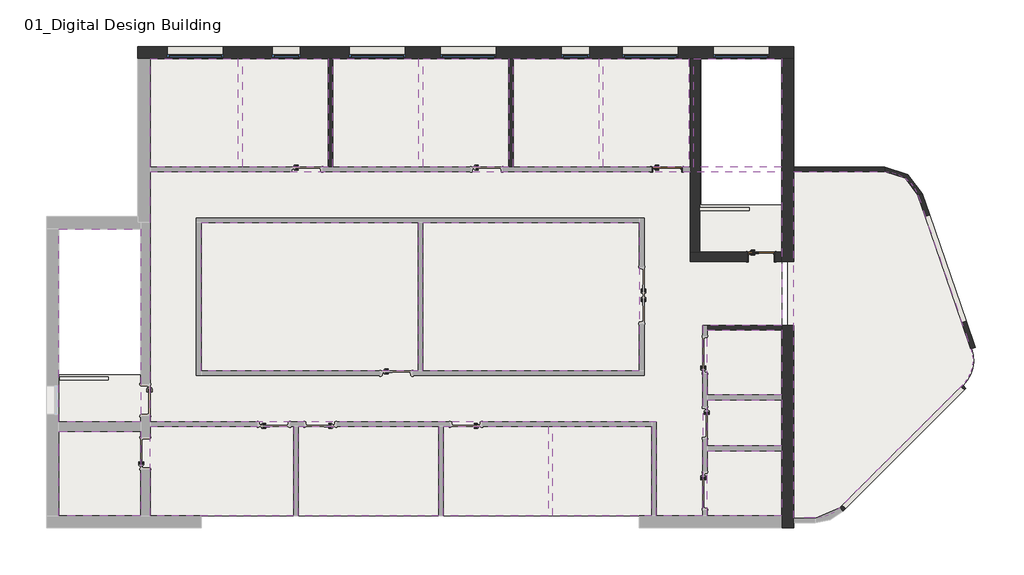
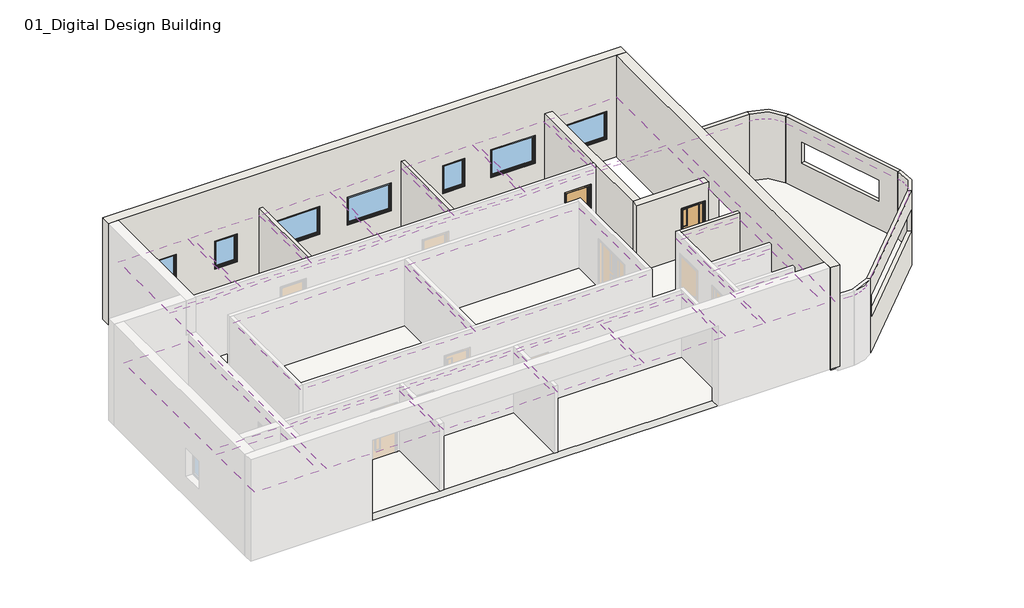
# One storey, part 2 of 2: 20 coverings, 13 walls, 7 windows, 2 doors, 2 slabs.
"""IFC4 building model written with IfcOpenShell, lengths in millimetres."""

from ifc_helpers import new_model, si_unit, point, frame, frame_2d, origin, place, context, project, spatial, polyline, circle_curve, trimmed, segment, composite_curve, outline, extrude, faceted_brep, transform, mapped, element, save
from components import doors_intsgl_1_1010x2110mm_12a6edaf, doors_intsgl_3_910x2110mm_ed6625c4, windows_concept_plain_sgl_1810x1210mm_7f7241d7, windows_concept_plain_sgl_910x1210mm_ef0b7ad2

model = new_model("IFC4")

# Units and contexts
model_context = context("Model", 3, world=origin())
ifc_project = project(units=[si_unit("LENGTHUNIT", "METRE", prefix="MILLI")], contexts=[model_context])

# Site, building, storey
site = spatial("IfcSite", under=ifc_project)
building = spatial("IfcBuilding", under=site)
storey = spatial("IfcBuildingStorey", under=building, Name="01_Digital Design Building", Elevation=4500.0)

# Coverings
placement = place(None, origin())
element("IfcCovering", 1, ObjectType="Ceiling_CompoundGeneric", at=placement, inside=storey, context=model_context, shape_type="SweptSolid", body=[
    extrude(outline(polyline([(425322.3206883, -385049.0026386), (425322.3206883, -381550.0026386), (428163.8921169, -381550.0026386), (428163.8921169, -385049.0026386), (425322.3206883, -385049.0026386)])), frame((0.0, 0.0, 7100.0), z_axis=(0.0, 0.0, 1.0), x_axis=(1.0, 0.0, 0.0)), (0.0, 0.0, 1.0), 52.0),
])
element("IfcCovering", 2, ObjectType="Ceiling_CompoundGeneric", at=placement, inside=storey, context=model_context, shape_type="SweptSolid", body=[
    extrude(outline(polyline([(428313.8921169, -381550.0026386), (431080.4635455, -381550.0026386), (431080.4635455, -385049.0026386), (428313.8921169, -385049.0026386), (428313.8921169, -381550.0026386)])), frame((0.0, 0.0, 7100.0), z_axis=(0.0, 0.0, 1.0), x_axis=(1.0, 0.0, 0.0)), (0.0, 0.0, 1.0), 52.0),
])
element("IfcCovering", 3, ObjectType="Ceiling_CompoundGeneric", at=placement, inside=storey, context=model_context, shape_type="SweptSolid", body=[
    extrude(outline(polyline([(431230.4635455, -381550.0026386), (433997.034974, -381550.0026386), (433997.034974, -385049.0026386), (431230.4635455, -385049.0026386), (431230.4635455, -381550.0026386)])), frame((0.0, 0.0, 7100.0), z_axis=(0.0, 0.0, 1.0), x_axis=(1.0, 0.0, 0.0)), (0.0, 0.0, 1.0), 52.0),
])
element("IfcCovering", 4, ObjectType="Ceiling_CompoundGeneric", at=placement, inside=storey, context=model_context, shape_type="SweptSolid", body=[
    extrude(outline(polyline([(434147.034974, -381550.0026386), (436913.6064026, -381550.0026386), (436913.6064026, -385049.0026386), (434147.034974, -385049.0026386), (434147.034974, -381550.0026386)])), frame((0.0, 0.0, 7100.0), z_axis=(0.0, 0.0, 1.0), x_axis=(1.0, 0.0, 0.0)), (0.0, 0.0, 1.0), 52.0),
])
element("IfcCovering", 5, ObjectType="Ceiling_CompoundGeneric", at=placement, inside=storey, context=model_context, shape_type="SweptSolid", body=[
    extrude(outline(polyline([(437063.6064026, -381550.0026386), (439830.1778312, -381550.0026386), (439830.1778312, -385049.0026386), (437063.6064026, -385049.0026386), (437063.6064026, -381550.0026386)])), frame((0.0, 0.0, 7100.0), z_axis=(0.0, 0.0, 1.0), x_axis=(1.0, 0.0, 0.0)), (0.0, 0.0, 1.0), 52.0),
])
element("IfcCovering", 6, ObjectType="Ceiling_CompoundGeneric", at=placement, inside=storey, context=model_context, shape_type="SweptSolid", body=[
    extrude(outline(polyline([(439980.1778312, -381550.0026386), (442746.7492598, -381550.0026386), (442746.7492598, -385049.0026386), (439980.1778312, -385049.0026386), (439980.1778312, -381550.0026386)])), frame((0.0, 0.0, 7100.0), z_axis=(0.0, 0.0, 1.0), x_axis=(1.0, 0.0, 0.0)), (0.0, 0.0, 1.0), 52.0),
])
element("IfcCovering", 7, ObjectType="Ceiling_CompoundGeneric", at=placement, inside=storey, context=model_context, shape_type="SweptSolid", body=[
    extrude(outline(polyline([(442896.7492598, -385049.0026386), (442896.7492598, -381550.0026386), (445738.3206883, -381550.0026386), (445738.3206883, -385049.0026386), (442896.7492598, -385049.0026386)])), frame((0.0, 0.0, 7100.0), z_axis=(0.0, 0.0, 1.0), x_axis=(1.0, 0.0, 0.0)), (0.0, 0.0, 1.0), 52.0),
])
element("IfcCovering", 8, ObjectType="Ceiling_CompoundGeneric", at=placement, inside=storey, context=model_context, shape_type="SweptSolid", body=[
    extrude(outline(polyline([(434142.3206883, -391649.0026386), (434142.3206883, -386849.0026386), (441142.3206883, -386849.0026386), (441142.3206883, -391649.0026386), (434142.3206883, -391649.0026386)])), frame((0.0, 0.0, 7100.0), z_axis=(0.0, 0.0, 1.0), x_axis=(1.0, 0.0, 0.0)), (0.0, 0.0, 1.0), 52.0),
])
element("IfcCovering", 9, ObjectType="Ceiling_CompoundGeneric", at=placement, inside=storey, context=model_context, shape_type="SweptSolid", body=[
    extrude(outline(polyline([(426972.3206883, -386849.0026386), (433992.3206883, -386849.0026386), (433992.3206883, -391649.0026386), (426972.3206883, -391649.0026386), (426972.3206883, -386849.0026386)])), frame((0.0, 0.0, 7100.0), z_axis=(0.0, 0.0, 1.0), x_axis=(1.0, 0.0, 0.0)), (0.0, 0.0, 1.0), 52.0),
])
element("IfcCovering", 10, ObjectType="Ceiling_CompoundGeneric", at=placement, inside=storey, context=model_context, shape_type="SweptSolid", body=[
    extrude(outline(polyline([(422376.3206883, -393299.0026386), (422376.3206883, -387049.0026386), (425012.3206883, -387049.0026386), (425012.3206883, -393299.0026386), (422376.3206883, -393299.0026386)])), frame((0.0, 0.0, 7100.0), z_axis=(0.0, 0.0, 1.0), x_axis=(1.0, 0.0, 0.0)), (0.0, 0.0, 1.0), 52.0),
])
element("IfcCovering", 11, ObjectType="Ceiling_CompoundGeneric", at=placement, inside=storey, context=model_context, shape_type="SweptSolid", body=[
    extrude(outline(polyline([(425012.3206883, -396328.0026386), (422376.3206883, -396328.0026386), (422376.3206883, -394395.0026386), (422376.3206883, -393609.0026386), (425012.3206883, -393609.0026386), (425012.3206883, -396328.0026386)])), frame((0.0, 0.0, 7100.0), z_axis=(0.0, 0.0, 1.0), x_axis=(1.0, 0.0, 0.0)), (0.0, 0.0, 1.0), 52.0),
])
element("IfcCovering", 12, ObjectType="Ceiling_CompoundGeneric", at=placement, inside=storey, context=model_context, shape_type="SweptSolid", body=[
    extrude(outline(polyline([(429969.5429107, -396328.0026386), (425322.3206883, -396328.0026386), (425322.3206883, -393449.0026386), (429969.5429107, -393449.0026386), (429969.5429107, -396328.0026386)])), frame((0.0, 0.0, 7100.0), z_axis=(0.0, 0.0, 1.0), x_axis=(1.0, 0.0, 0.0)), (0.0, 0.0, 1.0), 52.0),
])
element("IfcCovering", 13, ObjectType="Ceiling_CompoundGeneric", at=placement, inside=storey, context=model_context, shape_type="SweptSolid", body=[
    extrude(outline(polyline([(434652.8762438, -396328.0026386), (430119.5429107, -396328.0026386), (430119.5429107, -393449.0026386), (434652.8762438, -393449.0026386), (434652.8762438, -396328.0026386)])), frame((0.0, 0.0, 7100.0), z_axis=(0.0, 0.0, 1.0), x_axis=(1.0, 0.0, 0.0)), (0.0, 0.0, 1.0), 52.0),
])
element("IfcCovering", 14, ObjectType="Ceiling_CompoundGeneric", at=placement, inside=storey, context=model_context, shape_type="SweptSolid", body=[
    extrude(outline(polyline([(438198.3206883, -396328.0026386), (434802.8762438, -396328.0026386), (434802.8762438, -393449.0026386), (438198.3206883, -393449.0026386), (438198.3206883, -396328.0026386)])), frame((0.0, 0.0, 7100.0), z_axis=(0.0, 0.0, 1.0), x_axis=(1.0, 0.0, 0.0)), (0.0, 0.0, 1.0), 52.0),
])
element("IfcCovering", 15, ObjectType="Ceiling_CompoundGeneric", at=placement, inside=storey, context=model_context, shape_type="SweptSolid", body=[
    extrude(outline(polyline([(441538.3206883, -396328.0026386), (438348.3206883, -396328.0026386), (438348.3206883, -393449.0026386), (441538.3206883, -393449.0026386), (441538.3206883, -396328.0026386)])), frame((0.0, 0.0, 7100.0), z_axis=(0.0, 0.0, 1.0), x_axis=(1.0, 0.0, 0.0)), (0.0, 0.0, 1.0), 52.0),
])
element("IfcCovering", 16, ObjectType="Ceiling_CompoundGeneric", at=placement, inside=storey, context=model_context, shape_type="SweptSolid", body=[
    extrude(outline(polyline([(445738.3206883, -394228.0026386), (445738.3206883, -396328.0026386), (443338.3206883, -396328.0026386), (443338.3206883, -394228.0026386), (445738.3206883, -394228.0026386)])), frame((0.0, 0.0, 7100.0), z_axis=(0.0, 0.0, 1.0), x_axis=(1.0, 0.0, 0.0)), (0.0, 0.0, 1.0), 52.0),
])
element("IfcCovering", 17, ObjectType="Ceiling_CompoundGeneric", at=placement, inside=storey, context=model_context, shape_type="SweptSolid", body=[
    extrude(outline(polyline([(445738.3206883, -392578.0026386), (445738.3206883, -394078.0026386), (443338.3206883, -394078.0026386), (443338.3206883, -392578.0026386), (445738.3206883, -392578.0026386)])), frame((0.0, 0.0, 7100.0), z_axis=(0.0, 0.0, 1.0), x_axis=(1.0, 0.0, 0.0)), (0.0, 0.0, 1.0), 52.0),
])
element("IfcCovering", 18, ObjectType="Ceiling_CompoundGeneric", at=placement, inside=storey, context=model_context, shape_type="SweptSolid", body=[
    extrude(outline(polyline([(445738.3206883, -390328.0026386), (445738.3206883, -392428.0026386), (443338.3206883, -392428.0026386), (443338.3206883, -390328.0026386), (445738.3206883, -390328.0026386)])), frame((0.0, 0.0, 7100.0), z_axis=(0.0, 0.0, 1.0), x_axis=(1.0, 0.0, 0.0)), (0.0, 0.0, 1.0), 52.0),
])
element("IfcCovering", 19, ObjectType="Ceiling_CompoundGeneric", at=placement, inside=storey, context=model_context, shape_type="SweptSolid", body=[
    extrude(outline(polyline([(445738.3206883, -385199.0026386), (445738.3206883, -390178.0026386), (443188.3206883, -390178.0026386), (443188.3206883, -396328.0026386), (441688.3206883, -396328.0026386), (441688.3206883, -393299.0026386), (425322.3206883, -393299.0026386), (425322.3206883, -386848.0026386), (425322.3206883, -385199.0026386), (445738.3206883, -385199.0026386)]), holes=[polyline([(441292.3206883, -391799.0026386), (441292.3206883, -386699.0026386), (426822.3206883, -386699.0026386), (426822.3206883, -391799.0026386), (441292.3206883, -391799.0026386)])]), frame((0.0, 0.0, 7100.0), z_axis=(0.0, 0.0, 1.0), x_axis=(1.0, 0.0, 0.0)), (0.0, 0.0, 1.0), 52.0),
])
element("IfcCovering", 20, ObjectType="Ceiling_CompoundGeneric", at=placement, inside=storey, context=model_context, shape_type="SweptSolid", body=[
    extrude(outline(composite_curve([segment(polyline([(446140.3206883, -396408.0026386), (446140.3206883, -385199.0026386), (449083.3690069, -385199.0026386)]), True, "CONTINUOUS"), segment(trimmed(circle_curve(frame_2d((449083.3690069, -386324.0026386)), 1125.0), [point((449083.3690069, -385199.0026386))], [point((450147.0774044, -385957.7384648))], False, "CARTESIAN"), True, "CONTINUOUS"), segment(polyline([(450147.0774044, -385957.7384648), (451862.4112075, -390939.4295547)]), True, "CONTINUOUS"), segment(trimmed(circle_curve(frame_2d((450798.70281, -391305.6937285)), 1125.0), [point((451862.4112075, -390939.4295547))], [point((451594.1979388, -392101.1888573))], False, "CARTESIAN"), True, "CONTINUOUS"), segment(polyline([(451594.1979388, -392101.1888573), (447616.8890287, -396078.4977674)]), True, "CONTINUOUS"), segment(trimmed(circle_curve(frame_2d((446821.3938999, -395283.0026386)), 1125.0), [point((447616.8890287, -396078.4977674))], [point((446821.3938999, -396408.0026386))], False, "CARTESIAN"), True, "CONTINUOUS"), segment(polyline([(446821.3938999, -396408.0026386), (446140.3206883, -396408.0026386)]), True, "CONTINUOUS")], self_intersect=False)), frame((0.0, 0.0, 7100.0), z_axis=(0.0, 0.0, 1.0), x_axis=(1.0, 0.0, 0.0)), (0.0, 0.0, 1.0), 52.0),
])

# Doors
doors_intsgl_1_1010x2110mm_shape = doors_intsgl_1_1010x2110mm_12a6edaf(model_context)
element("IfcDoor", 21, ObjectType="Doors_IntSgl_1 : 1010x2110mm", at=placement, inside=storey, context=model_context, shape_type="MappedRepresentation", body=[
    mapped(doors_intsgl_1_1010x2110mm_shape, transform((442041.7492598, -385124.0026386, 4500.0), x_axis=(1.0, 0.0, 0.0), y_axis=(0.0, 1.0, 0.0), z_axis=(0.0, 0.0, 1.0))),
])
doors_intsgl_3_910x2110mm_shape = doors_intsgl_3_910x2110mm_ed6625c4(model_context)
element("IfcDoor", 22, ObjectType="Doors_IntSgl_3 : 910x2110mm", at=placement, inside=storey, context=model_context, shape_type="MappedRepresentation", body=[
    mapped(doors_intsgl_3_910x2110mm_shape, transform((445083.3206883, -387955.0026386, 4500.0), x_axis=(1.0, 0.0, 0.0), y_axis=(0.0, 1.0, 0.0), z_axis=(0.0, 0.0, 1.0))),
])

# Slabs
element("IfcSlab", 23, ObjectType="Floor_WSUK_Suspended", at=placement, inside=storey, context=model_context, shape_type="SweptSolid", body=[
    extrude(outline(polyline([(425322.3206883, -387049.0026386), (425322.3206883, -381550.0026386), (443122.3206883, -381550.0026386), (443122.3206883, -386275.0026386), (445738.3206883, -386275.0026386), (445738.3206883, -396328.0026386), (422376.3206883, -396328.0026386), (422376.3206883, -391774.0026386), (425012.3206883, -391774.0026386), (425012.3206883, -387049.0026386), (425322.3206883, -387049.0026386)])), frame((0.0, 0.0, 4200.0), z_axis=(0.0, 0.0, 1.0), x_axis=(1.0, 0.0, 0.0)), (0.0, 0.0, 1.0), 300.0),
])
element("IfcSlab", 24, ObjectType="Floor_WSUK_Suspended", at=placement, inside=storey, context=model_context, shape_type="SweptSolid", body=[
    extrude(outline(composite_curve([segment(trimmed(circle_curve(frame_2d((449083.3690069, -386324.0026386)), 1150.0), [point((449083.3690069, -385174.0026386))], [point((450170.7153688, -385949.599261))], False, "CARTESIAN"), True, "CONTINUOUS"), segment(polyline([(450170.7153688, -385949.599261), (451886.0491719, -390931.2903509)]), True, "CONTINUOUS"), segment(trimmed(circle_curve(frame_2d((450798.70281, -391305.6937285)), 1150.0), [point((451886.0491719, -390931.2903509))], [point((451611.8756083, -392118.8665269))], False, "CARTESIAN"), True, "CONTINUOUS"), segment(polyline([(451611.8756083, -392118.8665269), (447634.5666982, -396096.175437)]), True, "CONTINUOUS"), segment(trimmed(circle_curve(frame_2d((446821.3938999, -395283.0026386)), 1150.0), [point((447634.5666982, -396096.175437))], [point((446821.3938999, -396433.0026386))], False, "CARTESIAN"), True, "CONTINUOUS"), segment(polyline([(446821.3938999, -396433.0026386), (445939.3206883, -396433.0026386), (445939.3206883, -385174.0026386), (449083.3690069, -385174.0026386)]), True, "CONTINUOUS")], self_intersect=False)), frame((0.0, 0.0, 4200.0), z_axis=(0.0, 0.0, 1.0), x_axis=(1.0, 0.0, 0.0)), (0.0, 0.0, 1.0), 300.0),
])

# Walls
element("IfcWall", 25, ObjectType="Wall_Exterior_WSUK", at=placement, inside=storey, context=model_context, shape_type="Brep", body=[
    faceted_brep([(424920.3206883, -381550.0026386, 8900.0), (424920.3206883, -381550.0026386, 4500.0), (425012.3206883, -381550.0026386, 4500.0), (425322.3206883, -381550.0026386, 4500.0), (425414.3206883, -381550.0026386, 4500.0), (431080.4635455, -381550.0026386, 4500.0), (431230.4635455, -381550.0026386, 4500.0), (436913.6064026, -381550.0026386, 4500.0), (437063.6064026, -381550.0026386, 4500.0), (442792.3206883, -381550.0026386, 4500.0), (443102.3206883, -381550.0026386, 4500.0), (445738.3206883, -381550.0026386, 4500.0), (446140.3206883, -381550.0026386, 4500.0), (446140.3206883, -381550.0026386, 8900.0), (445738.3206883, -381550.0026386, 8900.0), (425322.3206883, -381550.0026386, 8900.0), (439530.1302121, -381550.0026386, 6610.0), (439530.1302121, -381550.0026386, 5400.0), (438620.1302121, -381550.0026386, 5400.0), (438620.1302121, -381550.0026386, 6610.0), (436518.4278312, -381550.0026386, 6610.0), (436518.4278312, -381550.0026386, 5400.0), (434708.4278312, -381550.0026386, 5400.0), (434708.4278312, -381550.0026386, 6610.0), (433576.7254502, -381550.0026386, 6610.0), (433576.7254502, -381550.0026386, 5400.0), (431766.7254502, -381550.0026386, 5400.0), (431766.7254502, -381550.0026386, 6610.0), (430185.0230693, -381550.0026386, 6610.0), (430185.0230693, -381550.0026386, 5400.0), (429275.0230693, -381550.0026386, 5400.0), (429275.0230693, -381550.0026386, 6610.0), (427693.3206883, -381550.0026386, 6610.0), (427693.3206883, -381550.0026386, 5400.0), (425883.3206883, -381550.0026386, 5400.0), (425883.3206883, -381550.0026386, 6610.0), (442401.8325931, -381550.0026386, 6610.0), (442401.8325931, -381550.0026386, 5400.0), (440591.8325931, -381550.0026386, 5400.0), (440591.8325931, -381550.0026386, 6610.0), (445343.534974, -381550.0026386, 6610.0), (445343.534974, -381550.0026386, 5400.0), (443533.534974, -381550.0026386, 5400.0), (443533.534974, -381550.0026386, 6610.0), (424920.3206883, -381148.0026386, 4500.0), (424920.3206883, -381148.0026386, 8900.0), (446140.3206883, -381148.0026386, 8900.0), (446140.3206883, -381148.0026386, 4500.0), (425414.3206883, -381148.0026386, 4500.0), (425012.3206883, -381148.0026386, 4500.0), (439530.1302121, -381148.0026386, 6610.0), (438620.1302121, -381148.0026386, 6610.0), (438620.1302121, -381148.0026386, 5400.0), (439530.1302121, -381148.0026386, 5400.0), (436518.4278312, -381148.0026386, 6610.0), (434708.4278312, -381148.0026386, 6610.0), (434708.4278312, -381148.0026386, 5400.0), (436518.4278312, -381148.0026386, 5400.0), (433576.7254502, -381148.0026386, 6610.0), (431766.7254502, -381148.0026386, 6610.0), (431766.7254502, -381148.0026386, 5400.0), (433576.7254502, -381148.0026386, 5400.0), (430185.0230693, -381148.0026386, 6610.0), (429275.0230693, -381148.0026386, 6610.0), (429275.0230693, -381148.0026386, 5400.0), (430185.0230693, -381148.0026386, 5400.0), (427693.3206883, -381148.0026386, 6610.0), (425883.3206883, -381148.0026386, 6610.0), (425883.3206883, -381148.0026386, 5400.0), (427693.3206883, -381148.0026386, 5400.0), (442401.8325931, -381148.0026386, 6610.0), (440591.8325931, -381148.0026386, 6610.0), (440591.8325931, -381148.0026386, 5400.0), (442401.8325931, -381148.0026386, 5400.0), (445343.534974, -381148.0026386, 6610.0), (443533.534974, -381148.0026386, 6610.0), (443533.534974, -381148.0026386, 5400.0), (445343.534974, -381148.0026386, 5400.0)], [[[0, 1, 2, 3, 4, 5, 6, 7, 8, 9, 10, 11, 12, 13, 14, 15], [16, 17, 18, 19], [20, 21, 22, 23], [24, 25, 26, 27], [28, 29, 30, 31], [32, 33, 34, 35], [36, 37, 38, 39], [40, 41, 42, 43]], [[44, 45, 46, 47, 48, 49], [50, 51, 52, 53], [54, 55, 56, 57], [58, 59, 60, 61], [62, 63, 64, 65], [66, 67, 68, 69], [70, 71, 72, 73], [74, 75, 76, 77]], [[12, 11, 10, 9, 8, 7, 6, 5, 4, 3, 2, 1, 44, 49, 48, 47]], [[0, 15, 14, 13, 46, 45]], [[13, 12, 47, 46]], [[0, 45, 44, 1]], [[17, 16, 50, 53]], [[18, 17, 53, 52]], [[19, 18, 52, 51]], [[16, 19, 51, 50]], [[21, 20, 54, 57]], [[22, 21, 57, 56]], [[23, 22, 56, 55]], [[20, 23, 55, 54]], [[25, 24, 58, 61]], [[26, 25, 61, 60]], [[27, 26, 60, 59]], [[24, 27, 59, 58]], [[29, 28, 62, 65]], [[30, 29, 65, 64]], [[31, 30, 64, 63]], [[28, 31, 63, 62]], [[33, 32, 66, 69]], [[34, 33, 69, 68]], [[35, 34, 68, 67]], [[32, 35, 67, 66]], [[37, 36, 70, 73]], [[38, 37, 73, 72]], [[39, 38, 72, 71]], [[36, 39, 71, 70]], [[41, 40, 74, 77]], [[42, 41, 77, 76]], [[43, 42, 76, 75]], [[40, 43, 75, 74]]]),
])
element("IfcWall", 26, ObjectType="Wall_Exterior_WSUK", at=placement, inside=storey, context=model_context, shape_type="Brep", body=[
    faceted_brep([(445738.3206883, -396730.0026386, 4500.0), (445738.3206883, -396730.0026386, 8900.0), (445738.3206883, -396328.0026386, 8900.0), (445738.3206883, -381550.0026386, 8900.0), (445738.3206883, -381550.0026386, 4500.0), (445738.3206883, -387800.0026386, 4500.0), (445738.3206883, -388110.0026386, 4500.0), (445738.3206883, -388110.0026386, 7100.0), (445738.3206883, -390178.0026386, 7100.0), (445738.3206883, -390178.0026386, 4500.0), (445738.3206883, -390328.0026386, 4500.0), (445738.3206883, -392428.0026386, 4500.0), (445738.3206883, -392578.0026386, 4500.0), (445738.3206883, -394078.0026386, 4500.0), (445738.3206883, -394228.0026386, 4500.0), (445738.3206883, -396328.0026386, 4500.0), (446140.3206883, -396730.0026386, 8900.0), (446140.3206883, -396730.0026386, 4500.0), (446140.3206883, -390178.0026386, 4500.0), (446140.3206883, -390178.0026386, 7100.0), (446140.3206883, -388110.0026386, 7100.0), (446140.3206883, -388110.0026386, 4500.0), (446140.3206883, -381550.0026386, 4500.0), (446140.3206883, -381550.0026386, 8900.0)], [[[0, 1, 2, 3, 4, 5, 6, 7, 8, 9, 10, 11, 12, 13, 14, 15]], [[16, 17, 18, 19, 20, 21, 22, 23]], [[4, 22, 21, 6, 5]], [[17, 0, 15, 14, 13, 12, 11, 10, 9, 18]], [[3, 2, 1, 16, 23]], [[4, 3, 23, 22]], [[0, 17, 16, 1]], [[7, 20, 19, 8]], [[8, 19, 18, 9]], [[20, 7, 6, 21]]]),
])
element("IfcWall", 27, ObjectType="Wall_Interior_WSUK", at=placement, inside=storey, context=model_context, shape_type="SweptSolid", body=[
    extrude(outline(polyline([(437063.6064026, -381550.0026386), (437063.6064026, -385049.0026386), (436913.6064026, -385049.0026386), (436913.6064026, -381550.0026386), (437063.6064026, -381550.0026386)])), frame((0.0, 0.0, 4500.0), z_axis=(0.0, 0.0, 1.0), x_axis=(1.0, 0.0, 0.0)), (0.0, 0.0, 1.0), 2900.0),
])
element("IfcWall", 28, ObjectType="Wall_Interior_WSUK", at=placement, inside=storey, context=model_context, shape_type="SweptSolid", body=[
    extrude(outline(polyline([(431230.4635455, -381550.0026386), (431230.4635455, -385049.0026386), (431080.4635455, -385049.0026386), (431080.4635455, -381550.0026386), (431230.4635455, -381550.0026386)])), frame((0.0, 0.0, 4500.0), z_axis=(0.0, 0.0, 1.0), x_axis=(1.0, 0.0, 0.0)), (0.0, 0.0, 1.0), 2900.0),
])
element("IfcWall", 29, ObjectType="Wall_Interior_WSUK", at=placement, inside=storey, context=model_context, shape_type="Brep", body=[
    faceted_brep([(443338.3206883, -390328.0026386, 4500.0), (445738.3206883, -390328.0026386, 4500.0), (445738.3206883, -390328.0026386, 7400.0), (443338.3206883, -390328.0026386, 7400.0), (443338.3206883, -390178.0026386, 4500.0), (443338.3206883, -390178.0026386, 7400.0), (445738.3206883, -390178.0026386, 7400.0), (445738.3206883, -390178.0026386, 7100.0), (445738.3206883, -390178.0026386, 4500.0)], [[[0, 1, 2, 3]], [[4, 5, 6, 7, 8]], [[1, 0, 4, 8]], [[3, 2, 6, 5]], [[0, 3, 5, 4]], [[2, 1, 8, 7, 6]]]),
])
element("IfcWall", 30, ObjectType="Wall_Interior_WSUK", at=placement, inside=storey, context=model_context, shape_type="SweptSolid", body=[
    extrude(outline(polyline([(449083.3690069, -385199.0026386), (446140.3206883, -385199.0026386), (446140.3206883, -385049.0026386), (449083.3690069, -385049.0026386), (449083.3690069, -385199.0026386)])), frame((0.0, 0.0, 4200.0), z_axis=(0.0, 0.0, 1.0), x_axis=(1.0, 0.0, 0.0)), (0.0, 0.0, 1.0), 3200.0),
])
element("IfcWall", 31, ObjectType="Wall_Interior_WSUK", at=placement, inside=storey, context=model_context, shape_type="SweptSolid", body=[
    extrude(outline(polyline([(855.9516814, 0.0), (6124.6912054, 0.0), (6124.6912054, -3200.0), (855.9516814, -3200.0), (855.9516814, 0.0)]), holes=[polyline([(1590.3214434, -2410.0), (5210.3214434, -2410.0), (5210.3214434, -1500.0), (1590.3214434, -1500.0), (1590.3214434, -2410.0)])]), frame((449868.4067952, -385148.4202502, 4200.0), z_axis=(0.9455185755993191, 0.32556815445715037, 0.0), x_axis=(0.32556815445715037, -0.9455185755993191, 0.0)), (0.0, 0.0, 1.0), 150.0),
])
element("IfcWall", 32, ObjectType="Wall_Interior_WSUK", at=placement, inside=storey, context=model_context, shape_type="SweptSolid", body=[
    extrude(outline(polyline([(-6374.6074247, 0.0), (-749.8432223, 0.0), (-749.8432223, -3200.0), (-6374.6074247, -3200.0), (-6374.6074247, 0.0)]), holes=[polyline([(-829.8432223, -1500.0), (-6254.6074247, -1500.0), (-6254.6074247, -2410.0), (-829.8432223, -2410.0), (-829.8432223, -1500.0)])]), frame((452230.4831833, -391677.0356472, 4200.0), z_axis=(-0.7071067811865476, 0.7071067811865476, 0.0), x_axis=(0.7071067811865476, 0.7071067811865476, 0.0)), (0.0, 0.0, 1.0), 150.0),
])
element("IfcWall", 33, ObjectType="Wall_Interior_WSUK", at=placement, inside=storey, context=model_context, shape_type="SweptSolid", body=[
    extrude(outline(composite_curve([segment(polyline([(450288.9051907, -385908.9032417), (450147.0774044, -385957.7384648)]), True, "CONTINUOUS"), segment(trimmed(circle_curve(frame_2d((449083.3690069, -386324.0026386)), 1125.0), [point((450147.0774044, -385957.7384648))], [point((449083.3690069, -385199.0026386))], True, "CARTESIAN"), True, "CONTINUOUS"), segment(polyline([(449083.3690069, -385199.0026386), (449083.3690069, -385049.0026386)]), True, "CONTINUOUS"), segment(trimmed(circle_curve(frame_2d((449083.3690069, -386324.0026386)), 1275.0), [point((449083.3690069, -385049.0026386))], [point((450288.9051907, -385908.9032417))], False, "CARTESIAN"), True, "CONTINUOUS")], self_intersect=False)), frame((0.0, 0.0, 4200.0), z_axis=(0.0, 0.0, 1.0), x_axis=(1.0, 0.0, 0.0)), (0.0, 0.0, 1.0), 3200.0),
])
element("IfcWall", 34, ObjectType="Wall_Interior_WSUK", at=placement, inside=storey, context=model_context, shape_type="SweptSolid", body=[
    extrude(outline(composite_curve([segment(trimmed(circle_curve(frame_2d((450798.70281, -391305.6937285)), 1275.0), [point((452004.2389939, -390890.5943316))], [point((451700.263956, -392207.2548745))], False, "CARTESIAN"), True, "CONTINUOUS"), segment(polyline([(451700.263956, -392207.2548745), (451594.1979388, -392101.1888573)]), True, "CONTINUOUS"), segment(trimmed(circle_curve(frame_2d((450798.70281, -391305.6937285)), 1125.0), [point((451594.1979388, -392101.1888573))], [point((451862.4112075, -390939.4295547))], True, "CARTESIAN"), True, "CONTINUOUS"), segment(polyline([(451862.4112075, -390939.4295547), (452004.2389939, -390890.5943316)]), True, "CONTINUOUS")], self_intersect=False)), frame((0.0, 0.0, 4200.0), z_axis=(0.0, 0.0, 1.0), x_axis=(1.0, 0.0, 0.0)), (0.0, 0.0, 1.0), 3200.0),
])
element("IfcWall", 35, ObjectType="Wall_Exterior_WSUK 2hr", at=placement, inside=storey, context=model_context, shape_type="Brep", body=[
    faceted_brep([(442792.3206883, -381550.0026386, 4500.0), (442792.3206883, -385049.0026386, 4500.0), (442792.3206883, -385199.0026386, 4500.0), (442792.3206883, -387800.0026386, 4500.0), (442792.3206883, -387800.0026386, 7400.0), (442792.3206883, -385199.0026386, 7400.0), (442792.3206883, -385049.0026386, 7400.0), (442792.3206883, -381550.0026386, 7400.0), (443102.3206883, -381550.0026386, 4500.0), (443102.3206883, -381550.0026386, 7400.0), (443102.3206883, -387800.0026386, 7400.0), (443102.3206883, -387800.0026386, 4500.0), (443102.3206883, -386455.0026386, 4500.0), (443102.3206883, -386355.0026386, 4500.0)], [[[0, 1, 2, 3, 4, 5, 6, 7]], [[8, 9, 10, 11, 12, 13]], [[3, 2, 1, 0, 8, 13, 12, 11]], [[7, 6, 5, 4, 10, 9]], [[4, 3, 11, 10]], [[0, 7, 9, 8]]]),
])
element("IfcWall", 36, ObjectType="Wall_Exterior_WSUK 2hr", at=placement, inside=storey, context=model_context, shape_type="Brep", body=[
    faceted_brep([(442792.3206883, -387800.0026386, 7400.0), (443102.3206883, -387800.0026386, 7400.0), (445738.3206883, -387800.0026386, 7400.0), (445738.3206883, -387800.0026386, 4500.0), (445538.3206883, -387800.0026386, 4500.0), (445538.3206883, -387800.0026386, 6610.0), (444628.3206883, -387800.0026386, 6610.0), (444628.3206883, -387800.0026386, 4500.0), (443102.3206883, -387800.0026386, 4500.0), (442792.3206883, -387800.0026386, 4500.0), (445738.3206883, -388110.0026386, 7400.0), (442792.3206883, -388110.0026386, 7400.0), (442792.3206883, -388110.0026386, 4500.0), (444628.3206883, -388110.0026386, 4500.0), (444628.3206883, -388110.0026386, 6610.0), (445538.3206883, -388110.0026386, 6610.0), (445538.3206883, -388110.0026386, 4500.0), (445738.3206883, -388110.0026386, 4500.0), (445738.3206883, -388110.0026386, 7100.0)], [[[0, 1, 2, 3, 4, 5, 6, 7, 8, 9]], [[10, 11, 12, 13, 14, 15, 16, 17, 18]], [[3, 17, 16, 4]], [[12, 9, 8, 7, 13]], [[2, 1, 0, 11, 10]], [[9, 12, 11, 0]], [[17, 3, 2, 10, 18]], [[15, 5, 4, 16]], [[5, 15, 14, 6]], [[6, 14, 13, 7]]]),
])
element("IfcWall", 37, ObjectType="Wall_Interior_Generic", at=placement, inside=storey, context=model_context, shape_type="SweptSolid", body=[
    extrude(outline(polyline([(444688.3206883, -386455.0026386), (443102.3206883, -386455.0026386), (443102.3206883, -386355.0026386), (444688.3206883, -386355.0026386), (444688.3206883, -386455.0026386)])), frame((0.0, 0.0, 4500.0), z_axis=(0.0, 0.0, 1.0), x_axis=(1.0, 0.0, 0.0)), (0.0, 0.0, 1.0), 1200.0),
])

# Windows
windows_concept_plain_sgl_1810x1210mm_shape = windows_concept_plain_sgl_1810x1210mm_7f7241d7(model_context)
element("IfcWindow", 38, ObjectType="Windows_Concept_Plain_Sgl : 1810x1210mm", at=placement, inside=storey, context=model_context, shape_type="MappedRepresentation", body=[
    mapped(windows_concept_plain_sgl_1810x1210mm_shape, transform((426788.3206883, -381340.5460708, 4500.0), x_axis=(-1.0, 0.0, 0.0), y_axis=(0.0, -1.0, 0.0), z_axis=(0.0, 0.0, 1.0))),
])
element("IfcWindow", 39, ObjectType="Windows_Concept_Plain_Sgl : 1810x1210mm", at=placement, inside=storey, context=model_context, shape_type="MappedRepresentation", body=[
    mapped(windows_concept_plain_sgl_1810x1210mm_shape, transform((432671.7254502, -381340.5460708, 4500.0), x_axis=(-1.0, 0.0, 0.0), y_axis=(0.0, -1.0, 0.0), z_axis=(0.0, 0.0, 1.0))),
])
element("IfcWindow", 40, ObjectType="Windows_Concept_Plain_Sgl : 1810x1210mm", at=placement, inside=storey, context=model_context, shape_type="MappedRepresentation", body=[
    mapped(windows_concept_plain_sgl_1810x1210mm_shape, transform((435613.4278312, -381340.5460708, 4500.0), x_axis=(-1.0, 0.0, 0.0), y_axis=(0.0, -1.0, 0.0), z_axis=(0.0, 0.0, 1.0))),
])
element("IfcWindow", 41, ObjectType="Windows_Concept_Plain_Sgl : 1810x1210mm", at=placement, inside=storey, context=model_context, shape_type="MappedRepresentation", body=[
    mapped(windows_concept_plain_sgl_1810x1210mm_shape, transform((441496.8325931, -381340.5460708, 4500.0), x_axis=(-1.0, 0.0, 0.0), y_axis=(0.0, -1.0, 0.0), z_axis=(0.0, 0.0, 1.0))),
])
element("IfcWindow", 42, ObjectType="Windows_Concept_Plain_Sgl : 1810x1210mm", at=placement, inside=storey, context=model_context, shape_type="MappedRepresentation", body=[
    mapped(windows_concept_plain_sgl_1810x1210mm_shape, transform((444438.534974, -381340.5460708, 4500.0), x_axis=(-1.0, 0.0, 0.0), y_axis=(0.0, -1.0, 0.0), z_axis=(0.0, 0.0, 1.0))),
])
windows_concept_plain_sgl_910x1210mm_shape = windows_concept_plain_sgl_910x1210mm_ef0b7ad2(model_context)
element("IfcWindow", 43, ObjectType="Windows_Concept_Plain_Sgl : 910x1210mm", at=placement, inside=storey, context=model_context, shape_type="MappedRepresentation", body=[
    mapped(windows_concept_plain_sgl_910x1210mm_shape, transform((429730.0230693, -381340.5460708, 4500.0), x_axis=(-1.0, 0.0, 0.0), y_axis=(0.0, -1.0, 0.0), z_axis=(0.0, 0.0, 1.0))),
])
element("IfcWindow", 44, ObjectType="Windows_Concept_Plain_Sgl : 910x1210mm", at=placement, inside=storey, context=model_context, shape_type="MappedRepresentation", body=[
    mapped(windows_concept_plain_sgl_910x1210mm_shape, transform((439075.1302121, -381340.5460708, 4500.0), x_axis=(-1.0, 0.0, 0.0), y_axis=(0.0, -1.0, 0.0), z_axis=(0.0, 0.0, 1.0))),
])

save(model, "model.ifc")
